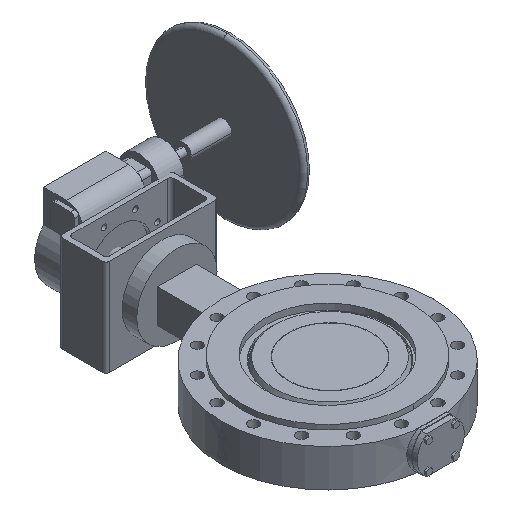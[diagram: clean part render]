
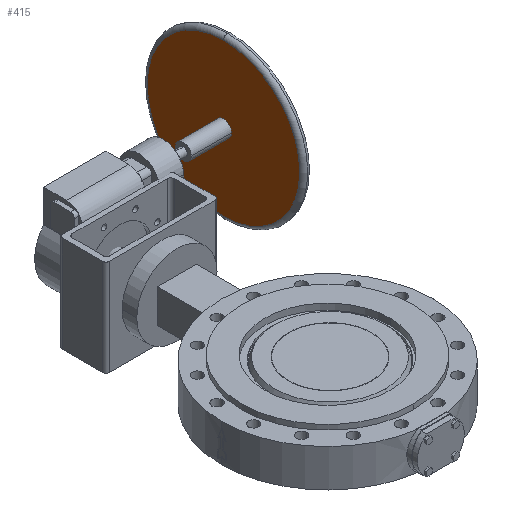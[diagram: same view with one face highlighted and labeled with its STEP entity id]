
A CAD part, isometric view. The second image highlights one B-rep face of the part: STEP entity #415.
In plain terms, the highlighted planar face has unit normal (-1, 0, 0).
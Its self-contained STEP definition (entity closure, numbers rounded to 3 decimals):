
#415 = ADVANCED_FACE( '', ( #1101, #1102 ), #1103, .T. );
#1101 = FACE_OUTER_BOUND( '', #1807, .T. );
#1102 = FACE_BOUND( '', #1808, .T. );
#1103 = PLANE( '', #1809 );
#1807 = EDGE_LOOP( '', ( #4217, #4218, #4219 ) );
#1808 = EDGE_LOOP( '', ( #4220, #4221 ) );
#1809 = AXIS2_PLACEMENT_3D( '', #4222, #4223, #4224 );
#4217 = ORIENTED_EDGE( '', *, *, #5002, .F. );
#4218 = ORIENTED_EDGE( '', *, *, #5001, .F. );
#4219 = ORIENTED_EDGE( '', *, *, #4998, .F. );
#4220 = ORIENTED_EDGE( '', *, *, #5014, .T. );
#4221 = ORIENTED_EDGE( '', *, *, #5151, .T. );
#4222 = CARTESIAN_POINT( '', ( 392., 847.25, 130. ) );
#4223 = DIRECTION( '', ( -1., 0., 0. ) );
#4224 = DIRECTION( '', ( 0., -1., 0. ) );
#4998 = EDGE_CURVE( '', #6215, #6217, #6218, .T. );
#5001 = EDGE_CURVE( '', #6217, #6221, #6222, .T. );
#5002 = EDGE_CURVE( '', #6221, #6215, #6223, .T. );
#5014 = EDGE_CURVE( '', #6240, #6244, #6246, .T. );
#5151 = EDGE_CURVE( '', #6244, #6240, #6475, .T. );
#6215 = VERTEX_POINT( '', #8743 );
#6217 = VERTEX_POINT( '', #8745 );
#6218 = CIRCLE( '', #8746, 237.5 );
#6221 = VERTEX_POINT( '', #8749 );
#6222 = CIRCLE( '', #8750, 237.5 );
#6223 = CIRCLE( '', #8751, 237.5 );
#6240 = VERTEX_POINT( '', #8770 );
#6244 = VERTEX_POINT( '', #8775 );
#6246 = CIRCLE( '', #8778, 25. );
#6475 = CIRCLE( '', #9132, 25. );
#8743 = CARTESIAN_POINT( '', ( 392., 716., 367.5 ) );
#8745 = CARTESIAN_POINT( '', ( 392., 716., -107.5 ) );
#8746 = AXIS2_PLACEMENT_3D( '', #10331, #10332, #10333 );
#8749 = CARTESIAN_POINT( '', ( 392., 953.5, 130. ) );
#8750 = AXIS2_PLACEMENT_3D( '', #10340, #10341, #10342 );
#8751 = AXIS2_PLACEMENT_3D( '', #10343, #10344, #10345 );
#8770 = CARTESIAN_POINT( '', ( 392., 741., 130. ) );
#8775 = CARTESIAN_POINT( '', ( 392., 691., 130. ) );
#8778 = AXIS2_PLACEMENT_3D( '', #10371, #10372, #10373 );
#9132 = AXIS2_PLACEMENT_3D( '', #10605, #10606, #10607 );
#10331 = CARTESIAN_POINT( '', ( 392., 716., 130. ) );
#10332 = DIRECTION( '', ( 1., 0., 0. ) );
#10333 = DIRECTION( '', ( 0., 1., 0. ) );
#10340 = CARTESIAN_POINT( '', ( 392., 716., 130. ) );
#10341 = DIRECTION( '', ( 1., 0., 0. ) );
#10342 = DIRECTION( '', ( 0., 1., 0. ) );
#10343 = CARTESIAN_POINT( '', ( 392., 716., 130. ) );
#10344 = DIRECTION( '', ( 1., 0., 0. ) );
#10345 = DIRECTION( '', ( 0., 1., 0. ) );
#10371 = CARTESIAN_POINT( '', ( 392., 716., 130. ) );
#10372 = DIRECTION( '', ( 1., 0., 0. ) );
#10373 = DIRECTION( '', ( 0., 1., 0. ) );
#10605 = CARTESIAN_POINT( '', ( 392., 716., 130. ) );
#10606 = DIRECTION( '', ( 1., 0., 0. ) );
#10607 = DIRECTION( '', ( 0., 1., 0. ) );
